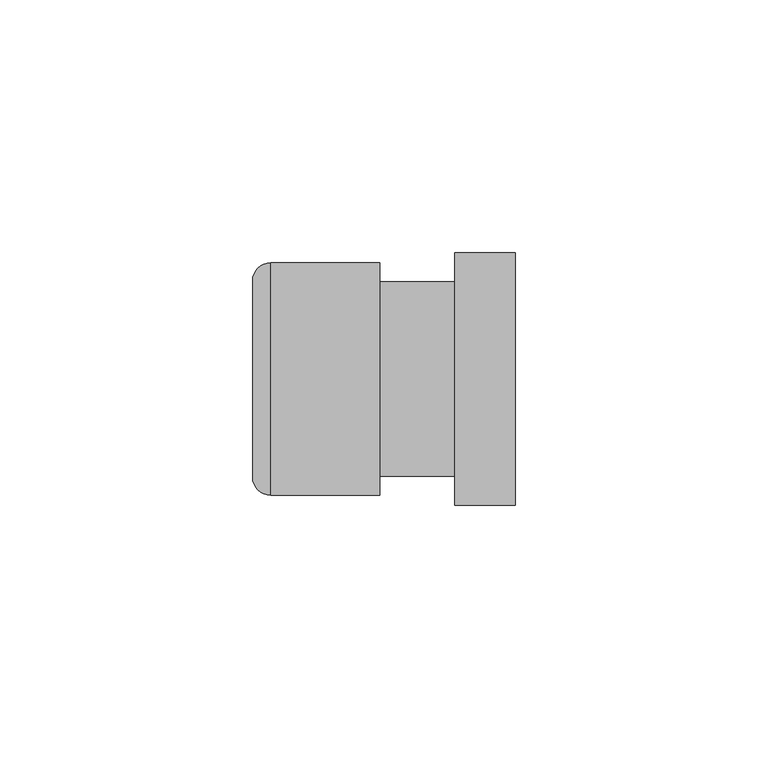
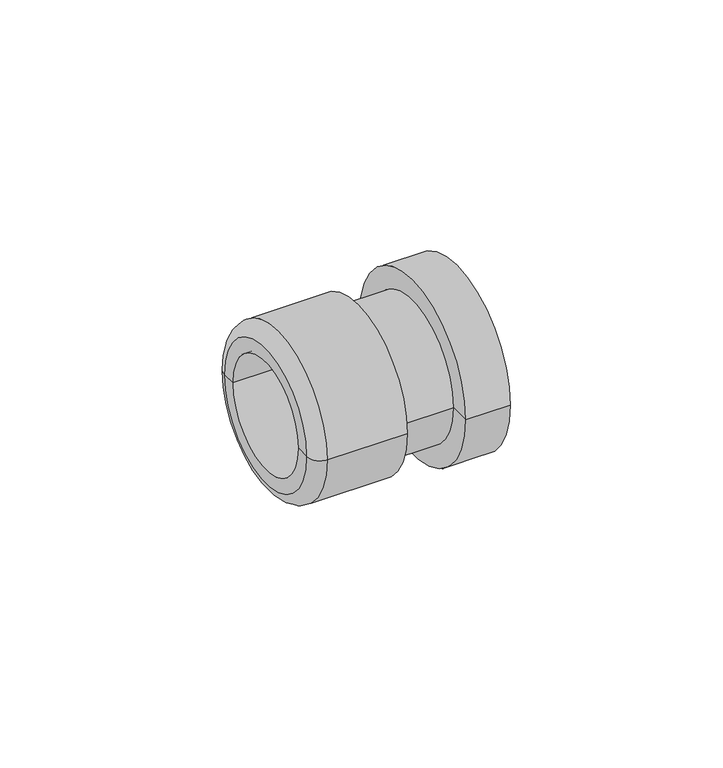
"""IFC4 building model written with IfcOpenShell, lengths in millimetres: cable carrier fitting geometry."""

from ifc_helpers import new_model, si_unit, point, frame, origin, place, context, project, spatial, polyline, circle_curve, ellipse_curve, trimmed, source, transform, mapped, element, save
from ifc_brep_helpers import plane_surface, cylinder_surface, revolved_surface, advanced_brep


def cable_carrier_fitting_b36d870f(model_context):
    return source(origin(), model_context, "Body", "AdvancedBrep", [
        advanced_brep(
        [(0.0, -23.0, 0.0), (0.0, 23.0, 0.0), (0.0, 19.25, 0.0), (0.0, -19.25, 0.0), (-21.639955, -23.0, 0.0), (-21.639955, 23.0, 0.0), (-25.2, -19.439955, 0.0), (-25.2, 19.439955, 0.0), (-25.2, -15.5, 0.0), (-25.2, 15.5, 0.0), (26.8, -15.5, 0.0), (26.8, 15.5, 0.0), (26.8, -25.0, 0.0), (26.8, 25.0, 0.0), (14.8, -25.0, 0.0), (14.8, 25.0, 0.0), (14.8, -19.25, 0.0), (14.8, 19.25, 0.0)],
        [
            (0, 1, circle_curve(frame((0.0, 0.0, 0.0), z_axis=(1.0, 0.0, 0.0), x_axis=(0.0, 1.0, 0.0)), 23.0)),
            (1, 2),
            (2, 3, circle_curve(frame((0.0, 0.0, 0.0), z_axis=(-1.0, 0.0, 0.0), x_axis=(0.0, 1.0, 0.0)), 19.25)),
            (3, 0),
            (1, 0, circle_curve(frame((0.0, 0.0, 0.0), z_axis=(1.0, 0.0, 0.0), x_axis=(0.0, 1.0, 0.0)), 23.0)),
            (3, 2, circle_curve(frame((0.0, 0.0, 0.0), z_axis=(-1.0, 0.0, 0.0), x_axis=(0.0, 1.0, 0.0)), 19.25)),
            (4, 5, circle_curve(frame((-21.639955, 0.0, 0.0), z_axis=(1.0, 0.0, 0.0), x_axis=(0.0, 1.0, 0.0)), 23.0)),
            (5, 1),
            (0, 4),
            (5, 4, circle_curve(frame((-21.639955, 0.0, 0.0), z_axis=(1.0, 0.0, 0.0), x_axis=(0.0, 1.0, 0.0)), 23.0)),
            (6, 7, circle_curve(frame((-25.2, 0.0, 0.0), z_axis=(1.0, 0.0, 0.0), x_axis=(0.0, 1.0, 0.0)), 19.439955)),
            (7, 5, circle_curve(frame((-21.639955, 19.439955, 0.0), z_axis=(0.0, 0.0, -1.0), x_axis=(1.0, 0.0, 0.0)), 3.560045)),
            (4, 6, circle_curve(frame((-21.639955, -19.439955, 0.0), z_axis=(0.0, 0.0, -1.0), x_axis=(1.0, 0.0, 0.0)), 3.560045)),
            (7, 6, circle_curve(frame((-25.2, 0.0, 0.0), z_axis=(1.0, 0.0, 0.0), x_axis=(0.0, 1.0, 0.0)), 19.439955)),
            (8, 9, circle_curve(frame((-25.2, 0.0, 0.0), z_axis=(1.0, 0.0, 0.0), x_axis=(0.0, 1.0, 0.0)), 15.5)),
            (9, 7),
            (6, 8),
            (9, 8, circle_curve(frame((-25.2, 0.0, 0.0), z_axis=(1.0, 0.0, 0.0), x_axis=(0.0, 1.0, 0.0)), 15.5)),
            (10, 11, circle_curve(frame((26.8, 0.0, 0.0), z_axis=(1.0, 0.0, 0.0), x_axis=(0.0, 1.0, 0.0)), 15.5)),
            (11, 9),
            (8, 10),
            (11, 10, circle_curve(frame((26.8, 0.0, 0.0), z_axis=(1.0, 0.0, 0.0), x_axis=(0.0, 1.0, 0.0)), 15.5)),
            (12, 13, circle_curve(frame((26.8, 0.0, 0.0), z_axis=(1.0, 0.0, 0.0), x_axis=(0.0, 1.0, 0.0)), 25.0)),
            (13, 11),
            (10, 12),
            (13, 12, circle_curve(frame((26.8, 0.0, 0.0), z_axis=(1.0, 0.0, 0.0), x_axis=(0.0, 1.0, 0.0)), 25.0)),
            (14, 15, circle_curve(frame((14.8, 0.0, 0.0), z_axis=(1.0, 0.0, 0.0), x_axis=(0.0, 1.0, 0.0)), 25.0)),
            (15, 13),
            (12, 14),
            (15, 14, circle_curve(frame((14.8, 0.0, 0.0), z_axis=(1.0, 0.0, 0.0), x_axis=(0.0, 1.0, 0.0)), 25.0)),
            (16, 17, circle_curve(frame((14.8, 0.0, 0.0), z_axis=(1.0, 0.0, 0.0), x_axis=(0.0, 1.0, 0.0)), 19.25)),
            (17, 15),
            (14, 16),
            (17, 16, circle_curve(frame((14.8, 0.0, 0.0), z_axis=(1.0, 0.0, 0.0), x_axis=(0.0, 1.0, 0.0)), 19.25)),
            (2, 17),
            (16, 3),
        ],
        [
            plane_surface(frame((0.0, 0.0, 0.0), z_axis=(1.0, 0.0, 0.0), x_axis=(0.0, 1.0, 0.0))),
            cylinder_surface(frame((1551.2, 0.0, 0.0), z_axis=(-1.0, 0.0, 0.0), x_axis=(0.0, 1.0, 0.0)), 23.0),
            revolved_surface(trimmed(ellipse_curve(frame((-21.639955, 19.439955, 0.0), z_axis=(0.0, 0.0, 1.0), x_axis=(1.0, 0.0, 0.0)), 3.560045, 3.560045), [point((-21.639955, 23.0, 0.0))], [point((-25.2, 19.439955, 0.0))], True, "CARTESIAN"), (1551.2, 0.0, 0.0), (-1.0, 0.0, 0.0)),
            plane_surface(frame((-25.2, 0.0, 0.0), z_axis=(-1.0, 0.0, 0.0), x_axis=(0.0, 1.0, 0.0))),
            revolved_surface(polyline([(-25.200000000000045, 15.5, 0.0), (26.799999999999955, 15.5, 0.0)]), (1551.2, 0.0, 0.0), (-1.0, 0.0, 0.0)),
            plane_surface(frame((26.8, 0.0, 0.0), z_axis=(1.0, 0.0, 0.0), x_axis=(0.0, 1.0, 0.0))),
            cylinder_surface(frame((1551.2, 0.0, 0.0), z_axis=(-1.0, 0.0, 0.0), x_axis=(0.0, 1.0, 0.0)), 25.0),
            plane_surface(frame((14.8, 0.0, 0.0), z_axis=(-1.0, 0.0, 0.0), x_axis=(0.0, 1.0, 0.0))),
            cylinder_surface(frame((1551.2, 0.0, 0.0), z_axis=(-1.0, 0.0, 0.0), x_axis=(0.0, 1.0, 0.0)), 19.25),
        ],
        [
            (0, [[1, 2, 3, 4]]),
            (0, [[5, -4, 6, -2]]),
            (1, [[7, 8, -1, 9]]),
            (1, [[10, -9, -5, -8]]),
            (2, [[11, 12, -7, 13]]),
            (2, [[14, -13, -10, -12]]),
            (3, [[15, 16, -11, 17]]),
            (3, [[18, -17, -14, -16]]),
            (4, [[19, 20, -15, 21]]),
            (4, [[22, -21, -18, -20]]),
            (5, [[23, 24, -19, 25]]),
            (5, [[26, -25, -22, -24]]),
            (6, [[27, 28, -23, 29]]),
            (6, [[30, -29, -26, -28]]),
            (7, [[31, 32, -27, 33]]),
            (7, [[34, -33, -30, -32]]),
            (8, [[-3, 35, -31, 36]]),
            (8, [[-6, -36, -34, -35]]),
        ],
    ),
    ])


if __name__ == "__main__":
    model = new_model("IFC4")
    model_context = context("Model", 3, world=origin())
    ifc_project = project(units=[si_unit("LENGTHUNIT", "METRE", prefix="MILLI")], contexts=[model_context])
    site = spatial("IfcSite", under=ifc_project)
    building = spatial("IfcBuilding", under=site)
    placement = place(None, origin())
    cable_carrier_fitting_shape = cable_carrier_fitting_b36d870f(model_context)
    element("IfcCableCarrierFitting", 1, at=placement, inside=building, context=model_context, shape_type="MappedRepresentation", body=[
        mapped(cable_carrier_fitting_shape, transform((0.0, 0.0, 0.0), x_axis=(1.0, 0.0, 0.0), y_axis=(0.0, 1.0, 0.0), z_axis=(0.0, 0.0, 1.0))),
    ])
    save(model, "model.ifc")
